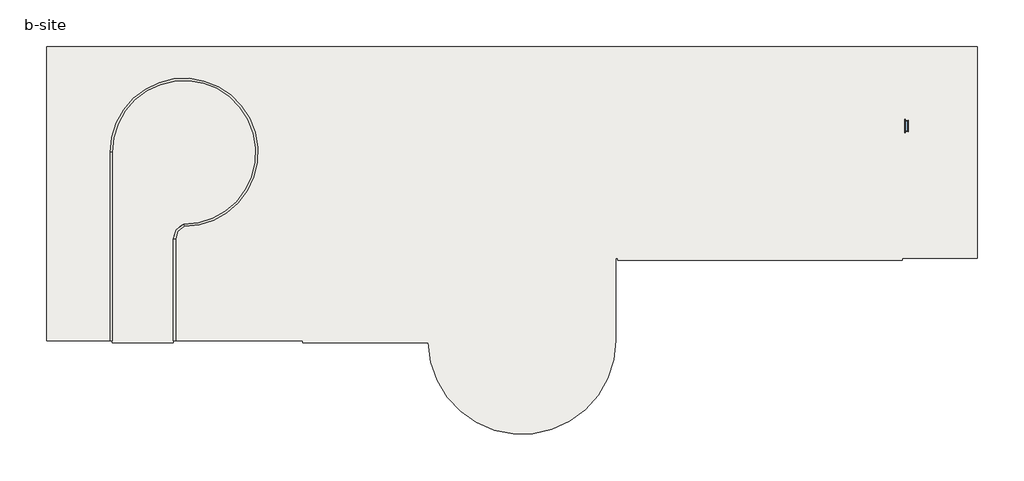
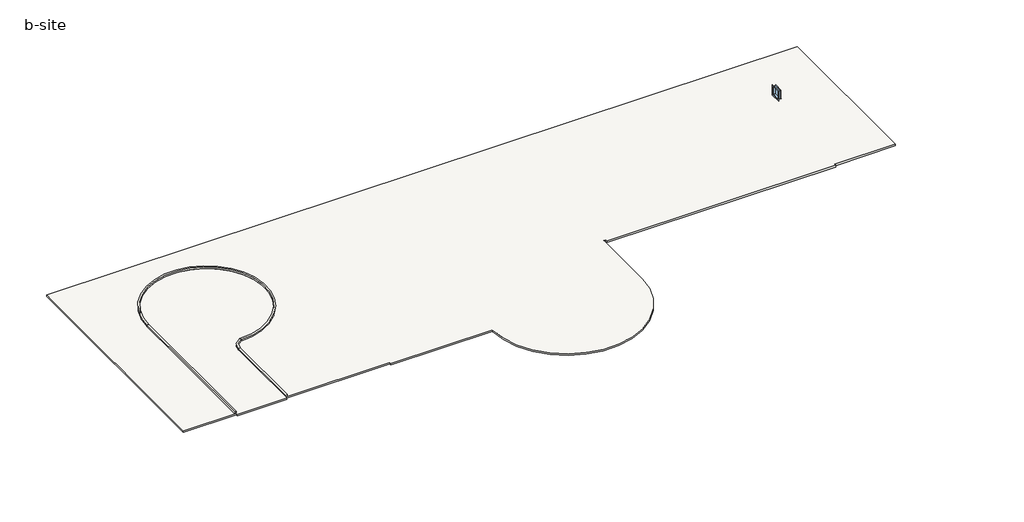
# One storey: 4 walls, 2 slabs, 1 window.
"""IFC4 building model written with IfcOpenShell, lengths in millimetres."""

from ifc_helpers import new_model, si_unit, point, frame, frame_2d, origin, place, context, project, spatial, polyline, circle_curve, trimmed, segment, composite_curve, outline, extrude, transform, mapped, element, save
from components import fixed_5_x5_e2f24dca

model = new_model("IFC4")

# Units and contexts
model_context = context("Model", 3, world=origin())
ifc_project = project(units=[si_unit("LENGTHUNIT", "METRE", prefix="MILLI")], contexts=[model_context])

# Site, building, storey
site = spatial("IfcSite", under=ifc_project)
building = spatial("IfcBuilding", under=site)
storey = spatial("IfcBuildingStorey", under=building, Name="b-site", Elevation=-152.4)

# Slabs
placement = place(None, origin())
element("IfcSlab", 1, ObjectType="a_drive", at=placement, inside=storey, context=model_context, shape_type="SweptSolid", body=[
    extrude(outline(composite_curve([segment(trimmed(circle_curve(frame_2d((-154947.290902, 33086.8071029)), 10363.2), [point((-165310.490902, 33086.8071029))], [point((-154972.7062147, 22723.638268))], False, "CARTESIAN"), True, "CONTINUOUS"), segment(trimmed(circle_curve(frame_2d((-154267.2322311, 20635.0126385)), 2204.5522361), [point((-154972.7062147, 22723.638268))], [point((-156471.290902, 20588.3656997))], True, "CARTESIAN"), True, "CONTINUOUS"), segment(polyline([(-156471.290902, 20588.3656997), (-156471.290902, 5654.8071029), (-165310.490902, 5654.8071029), (-165310.490902, 33086.8071029)]), True, "CONTINUOUS")], self_intersect=False)), frame((0.0, 0.0, -457.2), z_axis=(0.0, 0.0, 1.0), x_axis=(1.0, 0.0, 0.0)), (0.0, 0.0, 1.0), 304.8),
])
element("IfcSlab", 2, ObjectType="a_site paving", at=placement, inside=storey, context=model_context, shape_type="SweptSolid", body=[
    extrude(outline(composite_curve([segment(polyline([(-40647.290902, 48326.8071029), (-40647.290902, 17846.8071029), (-51467.690902, 17846.8071029), (-51467.690902, 17542.0071029), (-92463.290902, 17542.0071029), (-92463.290902, 17846.8071029), (-92768.090902, 17846.8071029), (-92768.090902, 5959.6071029)]), True, "CONTINUOUS"), segment(trimmed(circle_curve(frame_2d((-106255.0603798, 5959.6071029)), 13486.9694778), [point((-92768.090902, 5959.6071029))], [point((-119738.58524, 5654.8071029))], False, "CARTESIAN"), True, "CONTINUOUS"), segment(polyline([(-119738.58524, 5654.8071029), (-137878.490902, 5654.8071029), (-137878.490902, 5959.6071029), (-156471.290902, 5959.6071029), (-156471.290902, 20588.3656997)]), True, "CONTINUOUS"), segment(trimmed(circle_curve(frame_2d((-154267.2322311, 20635.0126385)), 2204.5522361), [point((-156471.290902, 20588.3656997))], [point((-154972.7062147, 22723.638268))], False, "CARTESIAN"), True, "CONTINUOUS"), segment(trimmed(circle_curve(frame_2d((-154947.290902, 33086.8071029)), 10363.2), [point((-154972.7062147, 22723.638268))], [point((-165310.490902, 33086.8071029))], True, "CARTESIAN"), True, "CONTINUOUS"), segment(polyline([(-165310.490902, 33086.8071029), (-165310.490902, 5959.6071029), (-174759.290902, 5959.6071029), (-174759.290902, 48326.8071029), (-40647.290902, 48326.8071029)]), True, "CONTINUOUS")], self_intersect=False)), frame((0.0, 0.0, -457.2), z_axis=(0.0, 0.0, 1.0), x_axis=(1.0, 0.0, 0.0)), (0.0, 0.0, 1.0), 304.8),
])

# Walls
element("IfcWall", 3, ObjectType="Generic - 12\"", at=placement, inside=storey, context=model_context, shape_type="SweptSolid", body=[
    extrude(outline(polyline([(-165310.490902, 33086.8071029), (-165310.490902, 5959.6071029), (-165615.290902, 5959.6071029), (-165615.290902, 33086.8071029), (-165310.490902, 33086.8071029)])), frame((0.0, 0.0, -152.4), z_axis=(0.0, 0.0, 1.0), x_axis=(1.0, 0.0, 0.0)), (0.0, 0.0, 1.0), 304.8),
])
element("IfcWall", 4, ObjectType="Generic - 12\"", at=placement, inside=storey, context=model_context, shape_type="SweptSolid", body=[
    extrude(outline(composite_curve([segment(polyline([(-154920.6980823, 22418.8402478), (-154972.7062147, 22723.638268)]), True, "CONTINUOUS"), segment(trimmed(circle_curve(frame_2d((-154947.290902, 33086.8071029)), 10363.2), [point((-154972.7062147, 22723.638268))], [point((-165310.490902, 33086.8071029))], True, "CARTESIAN"), True, "CONTINUOUS"), segment(polyline([(-165310.490902, 33086.8071029), (-165615.290902, 33086.8071029)]), True, "CONTINUOUS"), segment(trimmed(circle_curve(frame_2d((-154947.290902, 33086.8071029)), 10668.0), [point((-165615.290902, 33086.8071029))], [point((-154920.6980823, 22418.8402478))], False, "CARTESIAN"), True, "CONTINUOUS")], self_intersect=False)), frame((0.0, 0.0, -152.4), z_axis=(0.0, 0.0, 1.0), x_axis=(1.0, 0.0, 0.0)), (0.0, 0.0, 1.0), 304.8),
])
element("IfcWall", 5, ObjectType="Generic - 12\"", at=placement, inside=storey, context=model_context, shape_type="SweptSolid", body=[
    extrude(outline(polyline([(-156166.490902, 20591.7106806), (-156166.490902, 5959.6071029), (-156471.290902, 5959.6071029), (-156471.290902, 20588.3656997), (-156166.490902, 20591.7106806)])), frame((0.0, 0.0, -152.4), z_axis=(0.0, 0.0, 1.0), x_axis=(1.0, 0.0, 0.0)), (0.0, 0.0, 1.0), 304.8),
])
element("IfcWall", 6, ObjectType="Generic - 12\"", at=placement, inside=storey, context=model_context, shape_type="SweptSolid", body=[
    extrude(outline(composite_curve([segment(polyline([(-156166.490902, 20591.7106806), (-156471.290902, 20588.3656997)]), True, "CONTINUOUS"), segment(trimmed(circle_curve(frame_2d((-154267.2322311, 20635.0126385)), 2204.5522361), [point((-156471.290902, 20588.3656997))], [point((-154972.7062147, 22723.638268))], False, "CARTESIAN"), True, "CONTINUOUS"), segment(polyline([(-154972.7062147, 22723.638268), (-154920.6980823, 22418.8402478)]), True, "CONTINUOUS"), segment(trimmed(circle_curve(frame_2d((-154267.2322311, 20635.0126385)), 1899.7522361), [point((-154920.6980823, 22418.8402478))], [point((-156166.490902, 20591.7106806))], True, "CARTESIAN"), True, "CONTINUOUS")], self_intersect=False)), frame((0.0, 0.0, -152.4), z_axis=(0.0, 0.0, 1.0), x_axis=(1.0, 0.0, 0.0)), (0.0, 0.0, 1.0), 304.8),
])

# Window
fixed_5_x5_shape = fixed_5_x5_e2f24dca(model_context)
element("IfcWindow", 7, ObjectType="Fixed : 5'x5'", at=placement, inside=storey, context=model_context, shape_type="MappedRepresentation", body=[
    mapped(fixed_5_x5_shape, transform((-50858.090902, 36833.3071029, 0.0), x_axis=(0.0, -1.0, 0.0), y_axis=(1.0, 0.0, 0.0), z_axis=(0.0, 0.0, 1.0))),
])

save(model, "model.ifc")
